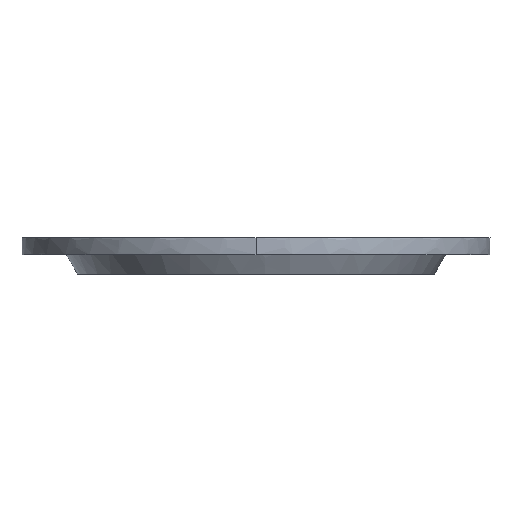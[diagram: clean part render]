
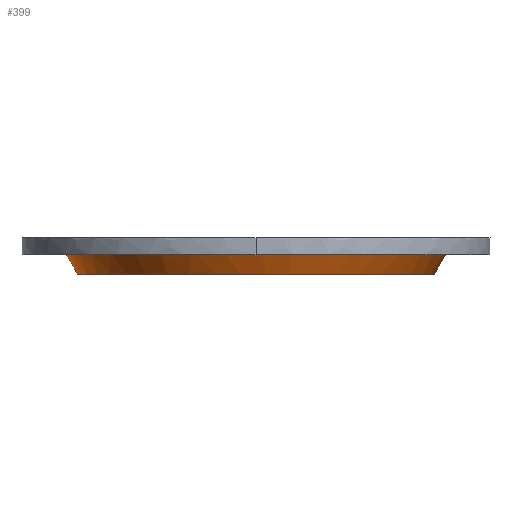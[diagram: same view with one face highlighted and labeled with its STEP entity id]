
A CAD part, left-side view. The second image highlights one B-rep face of the part: STEP entity #399.
In plain terms, the highlighted free-form (B-spline) face has degree [5, 3] with [9, 4] control points.
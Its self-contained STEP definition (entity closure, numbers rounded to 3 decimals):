
#277=CARTESIAN_POINT('Control Point',(1114.,-646.83,93.5)) ;
#278=CARTESIAN_POINT('Control Point',(1114.,-644.858,96.917)) ;
#279=CARTESIAN_POINT('Control Point',(1114.,-642.885,100.333)) ;
#280=CARTESIAN_POINT('Control Point',(1114.,-640.912,103.75)) ;
#281=CARTESIAN_POINT('Control Point',(1090.259,-646.83,93.5)) ;
#282=CARTESIAN_POINT('Control Point',(1089.619,-644.858,96.917)) ;
#283=CARTESIAN_POINT('Control Point',(1088.979,-642.885,100.333)) ;
#284=CARTESIAN_POINT('Control Point',(1088.339,-640.912,103.75)) ;
#285=CARTESIAN_POINT('Control Point',(1066.519,-656.459,93.5)) ;
#286=CARTESIAN_POINT('Control Point',(1065.239,-654.746,96.917)) ;
#287=CARTESIAN_POINT('Control Point',(1063.958,-653.033,100.333)) ;
#288=CARTESIAN_POINT('Control Point',(1062.678,-651.32,103.75)) ;
#289=CARTESIAN_POINT('Control Point',(1048.206,-675.694,93.5)) ;
#290=CARTESIAN_POINT('Control Point',(1046.432,-674.499,96.917)) ;
#291=CARTESIAN_POINT('Control Point',(1044.658,-673.305,100.333)) ;
#292=CARTESIAN_POINT('Control Point',(1042.884,-672.11,103.75)) ;
#293=CARTESIAN_POINT('Control Point',(1031.816,-722.59,93.5)) ;
#294=CARTESIAN_POINT('Control Point',(1029.6,-722.66,96.917)) ;
#295=CARTESIAN_POINT('Control Point',(1027.385,-722.729,100.333)) ;
#296=CARTESIAN_POINT('Control Point',(1025.169,-722.799,103.75)) ;
#297=CARTESIAN_POINT('Control Point',(1051.588,-767.709,93.5)) ;
#298=CARTESIAN_POINT('Control Point',(1049.905,-768.996,96.917)) ;
#299=CARTESIAN_POINT('Control Point',(1048.222,-770.282,100.333)) ;
#300=CARTESIAN_POINT('Control Point',(1046.54,-771.568,103.75)) ;
#301=CARTESIAN_POINT('Control Point',(1069.411,-784.678,93.5)) ;
#302=CARTESIAN_POINT('Control Point',(1068.209,-786.422,96.917)) ;
#303=CARTESIAN_POINT('Control Point',(1067.006,-788.166,100.333)) ;
#304=CARTESIAN_POINT('Control Point',(1065.804,-789.909,103.75)) ;
#305=CARTESIAN_POINT('Control Point',(1091.705,-793.17,93.5)) ;
#306=CARTESIAN_POINT('Control Point',(1091.104,-795.142,96.917)) ;
#307=CARTESIAN_POINT('Control Point',(1090.503,-797.115,100.333)) ;
#308=CARTESIAN_POINT('Control Point',(1089.902,-799.088,103.75)) ;
#309=CARTESIAN_POINT('Control Point',(1114.,-793.17,93.5)) ;
#310=CARTESIAN_POINT('Control Point',(1114.,-795.142,96.917)) ;
#311=CARTESIAN_POINT('Control Point',(1114.,-797.115,100.333)) ;
#312=CARTESIAN_POINT('Control Point',(1114.,-799.088,103.75)) ;
#314=CARTESIAN_POINT('Control Point',(1114.,-646.83,93.5)) ;
#315=CARTESIAN_POINT('Control Point',(1114.,-640.912,103.75)) ;
#316=CARTESIAN_POINT('Vertex',(1114.,-646.83,93.5)) ;
#318=CARTESIAN_POINT('Vertex',(1114.,-640.912,103.75)) ;
#322=CARTESIAN_POINT('Control Point',(1114.,-646.83,93.5)) ;
#323=CARTESIAN_POINT('Control Point',(1107.287,-646.83,93.5)) ;
#324=CARTESIAN_POINT('Control Point',(1100.575,-647.6,93.5)) ;
#325=CARTESIAN_POINT('Control Point',(1093.984,-649.138,93.5)) ;
#326=CARTESIAN_POINT('Control Point',(1081.264,-653.702,93.5)) ;
#327=CARTESIAN_POINT('Control Point',(1069.919,-661.019,93.5)) ;
#328=CARTESIAN_POINT('Control Point',(1064.686,-665.318,93.5)) ;
#329=CARTESIAN_POINT('Control Point',(1055.307,-675.033,93.5)) ;
#330=CARTESIAN_POINT('Control Point',(1048.365,-686.622,93.5)) ;
#331=CARTESIAN_POINT('Control Point',(1045.577,-692.793,93.5)) ;
#332=CARTESIAN_POINT('Control Point',(1041.465,-705.656,93.5)) ;
#333=CARTESIAN_POINT('Control Point',(1040.371,-719.131,93.5)) ;
#334=CARTESIAN_POINT('Control Point',(1040.602,-725.895,93.5)) ;
#335=CARTESIAN_POINT('Control Point',(1042.614,-739.262,93.5)) ;
#336=CARTESIAN_POINT('Control Point',(1047.594,-751.816,93.5)) ;
#337=CARTESIAN_POINT('Control Point',(1050.797,-757.781,93.5)) ;
#338=CARTESIAN_POINT('Control Point',(1058.513,-768.868,93.5)) ;
#339=CARTESIAN_POINT('Control Point',(1068.534,-777.921,93.5)) ;
#340=CARTESIAN_POINT('Control Point',(1074.048,-781.853,93.5)) ;
#341=CARTESIAN_POINT('Control Point',(1084.988,-787.893,93.5)) ;
#342=CARTESIAN_POINT('Control Point',(1096.94,-791.499,93.5)) ;
#343=CARTESIAN_POINT('Control Point',(1102.577,-792.613,93.5)) ;
#344=CARTESIAN_POINT('Control Point',(1108.288,-793.17,93.5)) ;
#345=CARTESIAN_POINT('Control Point',(1114.,-793.17,93.5)) ;
#346=CARTESIAN_POINT('Vertex',(1114.,-793.17,93.5)) ;
#350=CARTESIAN_POINT('Control Point',(1114.,-793.17,93.5)) ;
#351=CARTESIAN_POINT('Control Point',(1114.,-799.088,103.75)) ;
#352=CARTESIAN_POINT('Vertex',(1114.,-799.088,103.75)) ;
#356=CARTESIAN_POINT('Control Point',(1114.,-799.088,103.75)) ;
#357=CARTESIAN_POINT('Control Point',(1113.014,-799.088,103.75)) ;
#358=CARTESIAN_POINT('Control Point',(1112.027,-799.072,103.75)) ;
#359=CARTESIAN_POINT('Control Point',(1111.044,-799.042,103.75)) ;
#360=CARTESIAN_POINT('Control Point',(1109.075,-798.95,103.75)) ;
#361=CARTESIAN_POINT('Control Point',(1107.109,-798.796,103.75)) ;
#362=CARTESIAN_POINT('Control Point',(1106.128,-798.704,103.75)) ;
#363=CARTESIAN_POINT('Control Point',(1103.189,-798.383,103.75)) ;
#364=CARTESIAN_POINT('Control Point',(1100.268,-797.924,103.75)) ;
#365=CARTESIAN_POINT('Control Point',(1098.33,-797.558,103.75)) ;
#366=CARTESIAN_POINT('Control Point',(1092.556,-796.278,103.75)) ;
#367=CARTESIAN_POINT('Control Point',(1086.92,-794.464,103.75)) ;
#368=CARTESIAN_POINT('Control Point',(1083.243,-793.022,103.75)) ;
#369=CARTESIAN_POINT('Control Point',(1066.264,-785.11,103.75)) ;
#370=CARTESIAN_POINT('Control Point',(1051.931,-772.349,103.75)) ;
#371=CARTESIAN_POINT('Control Point',(1043.204,-759.768,103.75)) ;
#372=CARTESIAN_POINT('Control Point',(1033.182,-733.848,103.75)) ;
#373=CARTESIAN_POINT('Control Point',(1034.626,-706.301,103.75)) ;
#374=CARTESIAN_POINT('Control Point',(1037.743,-694.072,103.75)) ;
#375=CARTESIAN_POINT('Control Point',(1046.389,-675.994,103.75)) ;
#376=CARTESIAN_POINT('Control Point',(1059.943,-661.561,103.75)) ;
#377=CARTESIAN_POINT('Control Point',(1065.639,-656.766,103.75)) ;
#378=CARTESIAN_POINT('Control Point',(1074.941,-650.637,103.75)) ;
#379=CARTESIAN_POINT('Control Point',(1085.118,-646.236,103.75)) ;
#380=CARTESIAN_POINT('Control Point',(1088.59,-644.969,103.75)) ;
#381=CARTESIAN_POINT('Control Point',(1093.898,-643.376,103.75)) ;
#382=CARTESIAN_POINT('Control Point',(1099.32,-642.254,103.75)) ;
#383=CARTESIAN_POINT('Control Point',(1101.137,-641.932,103.75)) ;
#384=CARTESIAN_POINT('Control Point',(1103.876,-641.53,103.75)) ;
#385=CARTESIAN_POINT('Control Point',(1106.63,-641.248,103.75)) ;
#386=CARTESIAN_POINT('Control Point',(1107.549,-641.168,103.75)) ;
#387=CARTESIAN_POINT('Control Point',(1109.389,-641.033,103.75)) ;
#388=CARTESIAN_POINT('Control Point',(1111.233,-640.953,103.75)) ;
#389=CARTESIAN_POINT('Control Point',(1112.156,-640.926,103.75)) ;
#390=CARTESIAN_POINT('Control Point',(1113.077,-640.912,103.75)) ;
#391=CARTESIAN_POINT('Control Point',(1114.,-640.912,103.75)) ;
#320=EDGE_CURVE('',#317,#319,#313,.T.) ;
#348=EDGE_CURVE('',#317,#347,#321,.T.) ;
#354=EDGE_CURVE('',#347,#353,#349,.T.) ;
#392=EDGE_CURVE('',#319,#353,#355,.F.) ;
#394=ORIENTED_EDGE('',*,*,#320,.F.) ;
#395=ORIENTED_EDGE('',*,*,#348,.T.) ;
#396=ORIENTED_EDGE('',*,*,#354,.T.) ;
#397=ORIENTED_EDGE('',*,*,#392,.F.) ;
#399=ADVANCED_FACE('CNC \X2\5E26\X0\M8\X2\87BA7EB9\X0\_20240618',(#398),#276,.T.) ;
#317=VERTEX_POINT('',#316) ;
#319=VERTEX_POINT('',#318) ;
#347=VERTEX_POINT('',#346) ;
#353=VERTEX_POINT('',#352) ;
#313=B_SPLINE_CURVE_WITH_KNOTS('',1,(#314,#315),.UNSPECIFIED.,.F.,.U.,(2,2),(-1.732,10.104),.UNSPECIFIED.) ;
#321=B_SPLINE_CURVE_WITH_KNOTS('',5,(#322,#323,#324,#325,#326,#327,#328,#329,#330,#331,#332,#333,#334,#335,#336,#337,#338,#339,#340,#341,#342,#343,#344,#345),.UNSPECIFIED.,.F.,.U.,(6,3,3,3,3,3,3,6),(0.,47.909,95.864,143.805,191.711,239.638,287.581,328.345),.UNSPECIFIED.) ;
#349=B_SPLINE_CURVE_WITH_KNOTS('',1,(#350,#351),.UNSPECIFIED.,.F.,.U.,(2,2),(-1.732,10.104),.UNSPECIFIED.) ;
#355=B_SPLINE_CURVE_WITH_KNOTS('',5,(#356,#357,#358,#359,#360,#361,#362,#363,#364,#365,#366,#367,#368,#369,#370,#371,#372,#373,#374,#375,#376,#377,#378,#379,#380,#381,#382,#383,#384,#385,#386,#387,#388,#389,#390,#391),.UNSPECIFIED.,.F.,.U.,(6,3,3,3,3,3,3,3,3,3,3,6),(142.276,149.066,155.856,169.437,196.597,298.348,383.135,434.034,459.461,472.175,478.532,484.888),.UNSPECIFIED.) ;
#276=B_SPLINE_SURFACE_WITH_KNOTS('',5,3,((#277,#278,#279,#280),(#281,#282,#283,#284),(#285,#286,#287,#288),(#289,#290,#291,#292),(#293,#294,#295,#296),(#297,#298,#299,#300),(#301,#302,#303,#304),(#305,#306,#307,#308),(#309,#310,#311,#312)),.UNSPECIFIED.,.F.,.F.,.U.,(6,3,6),(4,4),(0.,120.911,234.458),(-1.732,10.104),.UNSPECIFIED.) ;
#393=EDGE_LOOP('',(#394,#395,#396,#397)) ;
#398=FACE_OUTER_BOUND('',#393,.T.) ;
